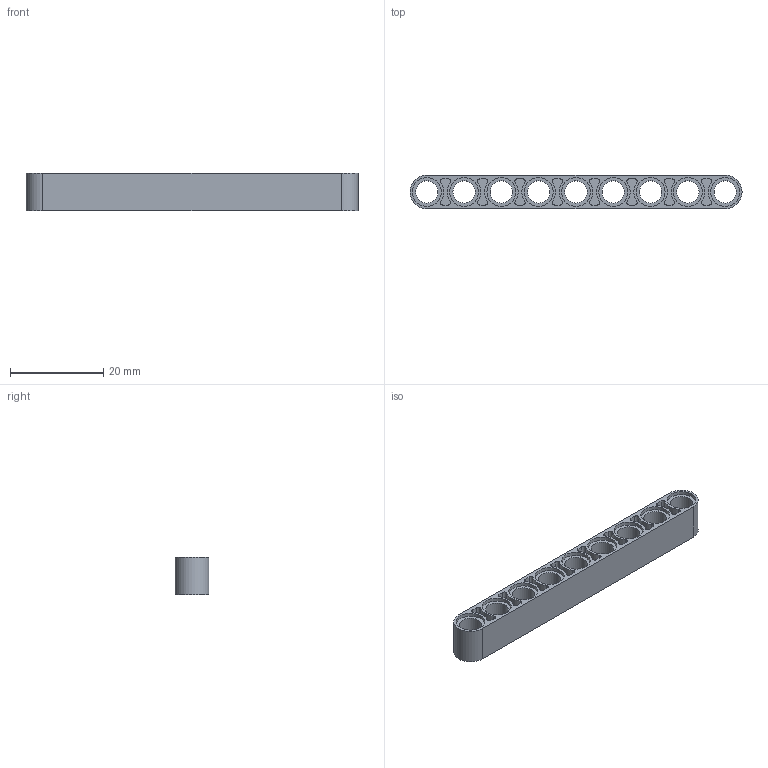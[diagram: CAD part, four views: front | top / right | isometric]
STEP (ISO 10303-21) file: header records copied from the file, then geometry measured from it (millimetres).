
FILE_DESCRIPTION(/* description */ ('Unknown'),/* implementation_level */ '2;1');
FILE_NAME(/* name */ 'Ye_4187136_AVV',/* time_stamp */ '2025-07-22T00:08:47+02:00',/* author */ ('Unknown'),/* organization */ ('Unknown'),/* preprocessor_version */ 'ST-DEVELOPER v19.4',/* originating_system */ 'Solid Edge',/* authorisation */ 'Unknown');
FILE_SCHEMA (('AUTOMOTIVE_DESIGN {1 0 10303 214 3 1 1}'));
Length unit declared in the file: millimetre
Products named in the file (1): Ye_4187136_AVV
Bounding box: 71.2 x 7.2 x 8 mm (x, y, z)
Volume: 2135.9 mm3; surface area: 3791.9 mm2
Topology: 1 solids, 1 shells, 195 faces, 477 edges, 318 vertices
Faces by surface type: cylinder 125, plane 70
Full cylindrical faces by diameter (mm): 4.8 x9, 6.2 x18
Entity records: 5792 total; most frequent: DIRECTION 1092, CARTESIAN_POINT 964, ORIENTED_EDGE 900, EDGE_CURVE 450, AXIS2_PLACEMENT_3D 446, VERTEX_POINT 318, EDGE_LOOP 274, FACE_BOUND 274
